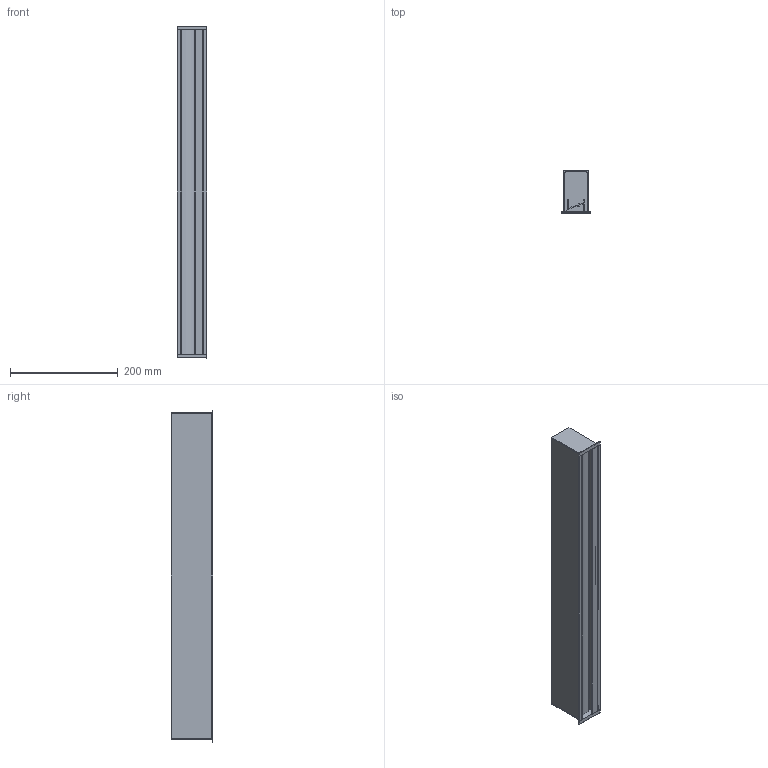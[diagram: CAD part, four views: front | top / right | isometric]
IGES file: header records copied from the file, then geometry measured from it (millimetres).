
Start section: SolidWorks IGES file using analytic representation for surfaces
Global section: file name: C:\Users\JoãoSantos\Desktop\02_3D.2D\01_2020\02_Linear\09_UW\01_Recessed\UW_RECESSED_615.IGS; native system: SolidWorks 2020; preprocessor: SolidWorks 2020; author: JoãoSantos; date: 201022.153949; units: millimetre
Bounding box: 55 x 77.5 x 615 mm (x, y, z)
Surface area: 381382.9 mm2 (no closed solid volume)
Topology: 0 solids, 0 shells, 114 faces, 824 edges, 816 vertices
Faces by surface type: revolution 61, bspline 53
